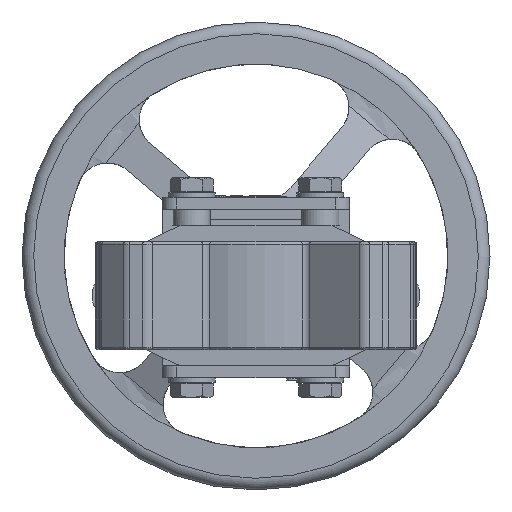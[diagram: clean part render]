
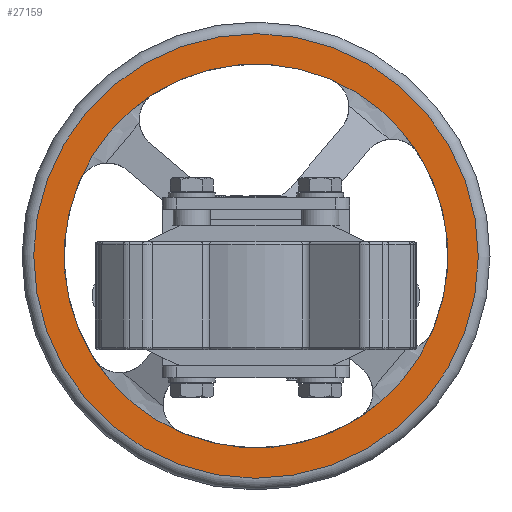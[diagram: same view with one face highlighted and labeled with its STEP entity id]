
A CAD part, front view. The second image highlights one B-rep face of the part: STEP entity #27159.
In plain terms, the highlighted planar face has unit normal (0, -1, 0).
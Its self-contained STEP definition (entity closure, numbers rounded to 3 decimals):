
#23502=CARTESIAN_POINT('',(-31.569,293.,-58.68));
#23503=VERTEX_POINT('',#23502);
#24165=CARTESIAN_POINT('',(75.68,293.,-14.569));
#24166=VERTEX_POINT('',#24165);
#24825=CARTESIAN_POINT('',(31.569,293.0,92.68));
#24826=VERTEX_POINT('',#24825);
#25330=CARTESIAN_POINT('',(-69.37,293.,-26.724));
#25331=VERTEX_POINT('',#25330);
#25351=CARTESIAN_POINT('',(0.,293.,17.));
#25352=DIRECTION('',(0.,1.0,0.));
#25353=DIRECTION('',(0.646,0.,0.764));
#25354=AXIS2_PLACEMENT_3D('',#25351,#25352,#25353);
#25355=CIRCLE('',#25354,82.0);
#25356=EDGE_CURVE('',#23503,#25331,#25355,.T.);
#25520=CARTESIAN_POINT('',(43.724,293.0,-52.37));
#25521=VERTEX_POINT('',#25520);
#25541=CARTESIAN_POINT('',(0.,293.,17.));
#25542=DIRECTION('',(0.,1.0,0.));
#25543=DIRECTION('',(0.646,0.,0.764));
#25544=AXIS2_PLACEMENT_3D('',#25541,#25542,#25543);
#25545=CIRCLE('',#25544,82.0);
#25546=EDGE_CURVE('',#24166,#25521,#25545,.T.);
#25710=CARTESIAN_POINT('',(69.37,293.,60.724));
#25711=VERTEX_POINT('',#25710);
#25731=CARTESIAN_POINT('',(0.,293.,17.));
#25732=DIRECTION('',(0.,1.0,0.));
#25733=DIRECTION('',(0.646,0.,0.764));
#25734=AXIS2_PLACEMENT_3D('',#25731,#25732,#25733);
#25735=CIRCLE('',#25734,82.0);
#25736=EDGE_CURVE('',#24826,#25711,#25735,.T.);
#25758=CARTESIAN_POINT('',(0.,293.,17.));
#25759=DIRECTION('',(0.,1.0,0.));
#25760=DIRECTION('',(0.646,0.,0.764));
#25761=AXIS2_PLACEMENT_3D('',#25758,#25759,#25760);
#25762=CIRCLE('',#25761,82.0);
#25763=EDGE_CURVE('',#25521,#23503,#25762,.T.);
#25768=CARTESIAN_POINT('',(0.,293.,17.));
#25769=DIRECTION('',(0.,1.0,0.));
#25770=DIRECTION('',(0.646,0.,0.764));
#25771=AXIS2_PLACEMENT_3D('',#25768,#25769,#25770);
#25772=CIRCLE('',#25771,82.0);
#25773=EDGE_CURVE('',#25711,#24166,#25772,.T.);
#25783=CARTESIAN_POINT('',(-43.724,293.,86.37));
#25784=VERTEX_POINT('',#25783);
#25785=CARTESIAN_POINT('',(0.,293.,17.));
#25786=DIRECTION('',(0.,1.0,0.));
#25787=DIRECTION('',(0.646,0.,0.764));
#25788=AXIS2_PLACEMENT_3D('',#25785,#25786,#25787);
#25789=CIRCLE('',#25788,82.0);
#25790=EDGE_CURVE('',#25784,#24826,#25789,.T.);
#25809=CARTESIAN_POINT('',(-75.68,293.,48.569));
#25810=VERTEX_POINT('',#25809);
#25817=CARTESIAN_POINT('',(0.,293.,17.));
#25818=DIRECTION('',(0.,1.0,0.));
#25819=DIRECTION('',(0.646,0.,0.764));
#25820=AXIS2_PLACEMENT_3D('',#25817,#25818,#25819);
#25821=CIRCLE('',#25820,82.0);
#25822=EDGE_CURVE('',#25331,#25810,#25821,.T.);
#27103=CARTESIAN_POINT('',(-61.331,293.,-55.55));
#27104=VERTEX_POINT('',#27103);
#27105=CARTESIAN_POINT('',(0.,293.,17.));
#27106=DIRECTION('',(0.,1.0,0.));
#27107=DIRECTION('',(0.646,0.,0.764));
#27108=AXIS2_PLACEMENT_3D('',#27105,#27106,#27107);
#27109=CIRCLE('',#27108,95.0);
#27110=EDGE_CURVE('',#27104,#27104,#27109,.T.);
#27135=CARTESIAN_POINT('',(0.,293.,17.));
#27136=DIRECTION('',(0.0,1.0,0.0));
#27137=DIRECTION('',(-0.646,0.0,-0.764));
#27138=AXIS2_PLACEMENT_3D('',#27135,#27136,#27137);
#27139=PLANE('',#27138);
#27140=ORIENTED_EDGE('',*,*,#27110,.F.);
#27141=EDGE_LOOP('',(#27140));
#27142=FACE_OUTER_BOUND('',#27141,.T.);
#27143=ORIENTED_EDGE('',*,*,#25790,.T.);
#27144=ORIENTED_EDGE('',*,*,#25736,.T.);
#27145=ORIENTED_EDGE('',*,*,#25773,.T.);
#27146=ORIENTED_EDGE('',*,*,#25546,.T.);
#27147=ORIENTED_EDGE('',*,*,#25763,.T.);
#27148=ORIENTED_EDGE('',*,*,#25356,.T.);
#27149=ORIENTED_EDGE('',*,*,#25822,.T.);
#27150=CARTESIAN_POINT('',(0.,293.,17.));
#27151=DIRECTION('',(0.,1.0,0.));
#27152=DIRECTION('',(0.646,0.,0.764));
#27153=AXIS2_PLACEMENT_3D('',#27150,#27151,#27152);
#27154=CIRCLE('',#27153,82.0);
#27155=EDGE_CURVE('',#25810,#25784,#27154,.T.);
#27156=ORIENTED_EDGE('',*,*,#27155,.T.);
#27157=EDGE_LOOP('',(#27143,#27144,#27145,#27146,#27147,#27148,#27149,#27156));
#27158=FACE_BOUND('',#27157,.T.);
#27159=ADVANCED_FACE('',(#27142,#27158),#27139,.F.);
